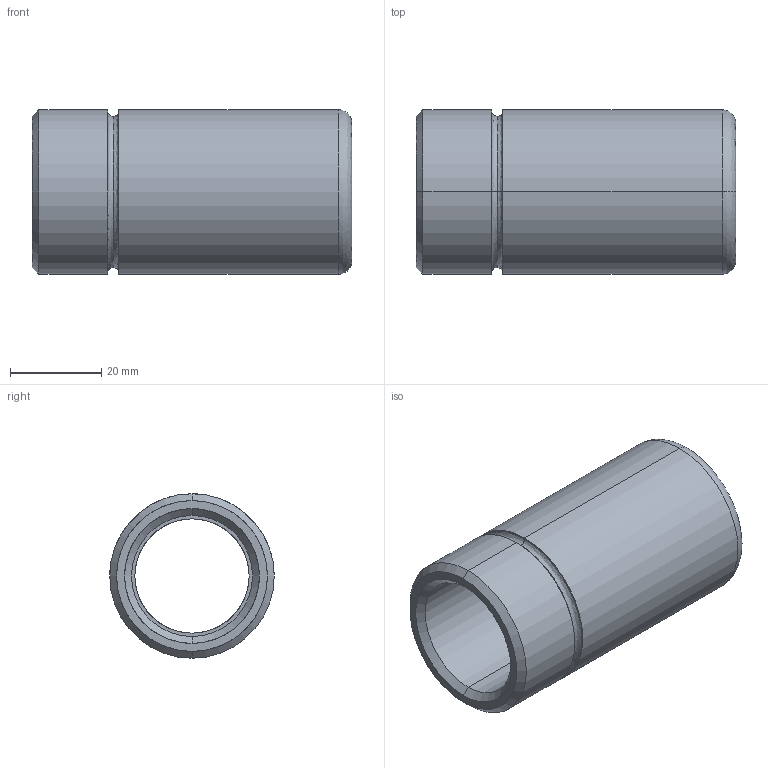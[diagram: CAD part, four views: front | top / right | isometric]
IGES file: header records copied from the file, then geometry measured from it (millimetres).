
Start section: START RECORD GO HERE.
Global section: file name: 348-25 x 70.igs; native system: DASSAULT SYSTEMES CATIA V5 R20 - www.3ds.com; preprocessor: CATIA Version 5 Release 20 ; author: Utente; organization: NB04-ASUS; date: 20201230.205655; units: millimetre
Bounding box: 70 x 36 x 36 mm (x, y, z)
Surface area: 14586.9 mm2 (no closed solid volume)
Topology: 0 solids, 0 shells, 29 faces, 172 edges, 172 vertices
Faces by surface type: revolution 26, plane 3
